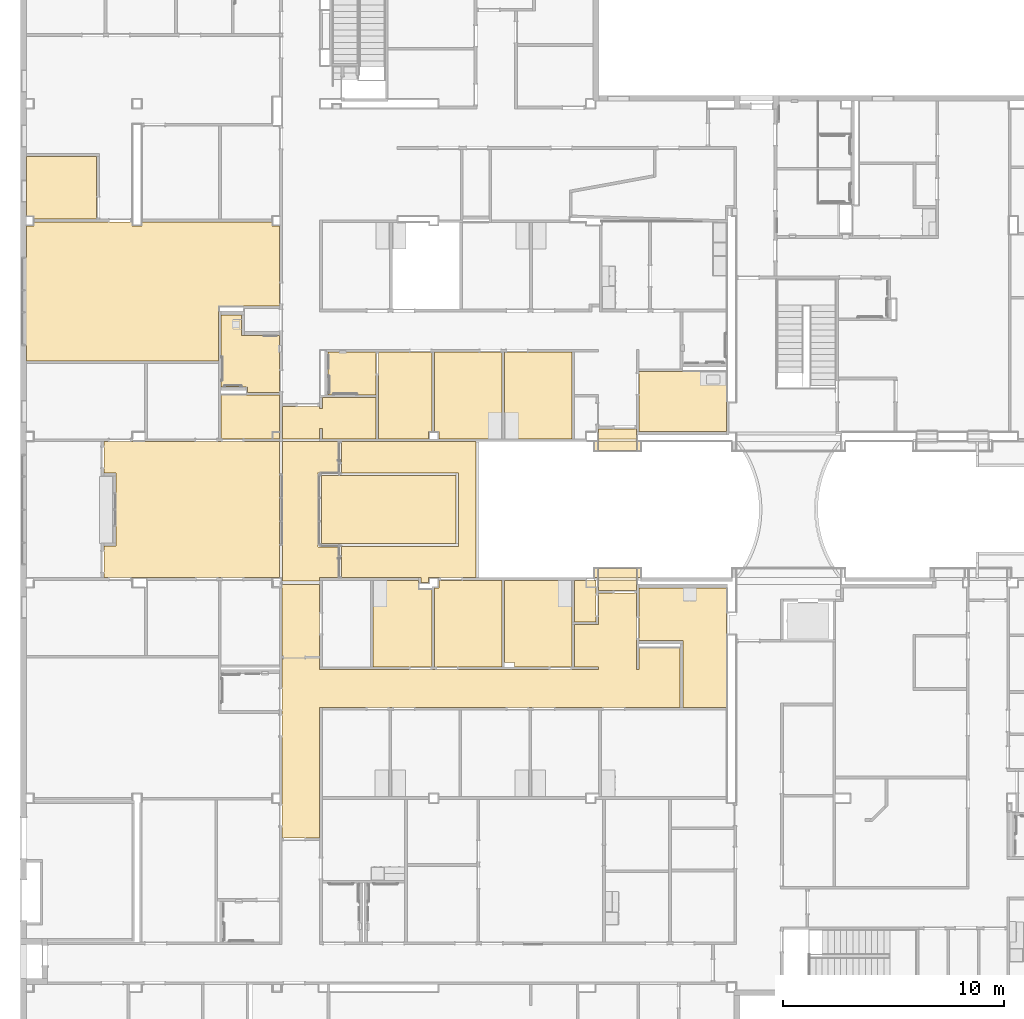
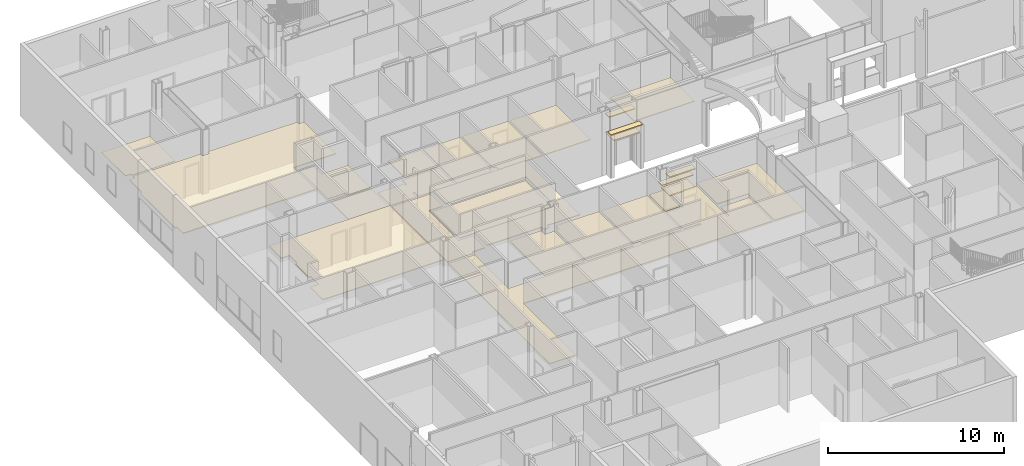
# One storey, part 50 of 82: 25 coverings.
"""IFC2X3 building model written with IfcOpenShell, lengths in metres."""

from ifc_helpers import new_model, entity, si_unit, converted_unit, origin, place, context, project, spatial, face_set, surface_model, material, layer, layer_set, layer_usage, element, save


model = new_model("IFC2X3")

# Units and contexts
model_context = context("Model", 3, precision=1e-09, world=origin())
plan_context = context("Plan", 3, precision=1e-09, world=origin())
ifc_project = project(units=[si_unit("LENGTHUNIT", "METRE"), si_unit("AREAUNIT", "SQUARE_METRE"), si_unit("VOLUMEUNIT", "CUBIC_METRE"), converted_unit("PLANEANGLEUNIT", "DEGREE", entity("IfcRatioMeasure", 0.01745329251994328), si_unit("PLANEANGLEUNIT", "RADIAN"), dimensions=[0, 0, 0, 0, 0, 0, 0]), si_unit("TIMEUNIT", "SECOND")], contexts=[model_context, plan_context])

# Site, building, storey
site_placement = place(None, origin())
site = spatial("IfcSite", under=ifc_project, at=site_placement, Name="Default", CompositionType="ELEMENT")
building_placement = place(site_placement, origin())
building = spatial("IfcBuilding", under=site, at=building_placement, CompositionType="ELEMENT")
storey_placement = place(building_placement, origin())
storey = spatial("IfcBuildingStorey", under=building, at=storey_placement, Name="First Floor", CompositionType="ELEMENT", Elevation=-3.531500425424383e-13)

# Coverings
ifc_material_1 = material(Name="Default")
ifc_layer_1 = layer(ifc_material_1, 0.03599999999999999)
ifc_material_2 = material(Name="Ceiling Tile 600 x 600")
ifc_layer_2 = layer(ifc_material_2, 0.016)
ifc_layer_set_1 = layer_set([ifc_layer_1, ifc_layer_2], Name="Compound Ceiling:ACT 600 x 600mm Grid")
ifc_layer_usage_1 = layer_usage(ifc_layer_set_1, "AXIS3", "NEGATIVE", 0.0)
covering_1_placement = place(storey_placement, origin())
element("IfcCovering", 1, at=covering_1_placement, inside=storey, material=ifc_layer_usage_1, Name="Compound Ceiling:ACT 600 x 600mm Grid", ObjectType="Compound Ceiling:ACT 600 x 600mm Grid", PredefinedType="CEILING", context=model_context, shape_type="SurfaceModel", body=[
    surface_model("IfcFaceBasedSurfaceModel", [(-38.64500000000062, 30.15499999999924, 2.732), (-38.64500000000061, 33.23499999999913, 2.732), (-32.54900000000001, 33.2349999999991, 2.732), (-32.54900000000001, 30.15499999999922, 2.732), (-38.64500000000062, 30.15499999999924, 2.68), (-38.64500000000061, 33.23499999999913, 2.68), (-32.54900000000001, 33.2349999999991, 2.68), (-32.54900000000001, 30.15499999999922, 2.68)], [face_set([[[0, 1, 2, 3]], [[4, 5, 6, 7]], [[3, 0, 4, 7]], [[2, 3, 7, 6]], [[1, 5, 6, 2]], [[0, 4, 5, 1]]])]),
])
ifc_material_3 = material(Name="Metal - Stud Layer")
ifc_layer_3 = layer(ifc_material_3, 0.045)
ifc_material_4 = material(Name="Plasterboard")
ifc_layer_4 = layer(ifc_material_4, 0.012)
ifc_layer_set_2 = layer_set([ifc_layer_3, ifc_layer_4], Name="Compound Ceiling:Gypsum Board")
ifc_layer_usage_2 = layer_usage(ifc_layer_set_2, "AXIS3", "NEGATIVE", 0.0)
covering_2_placement = place(storey_placement, origin())
element("IfcCovering", 2, at=covering_2_placement, inside=storey, material=ifc_layer_usage_2, Name="Compound Ceiling:Gypsum Board", ObjectType="Compound Ceiling:Gypsum Board", PredefinedType="CEILING", context=model_context, shape_type="SurfaceModel", body=[
    surface_model("IfcFaceBasedSurfaceModel", [(-31.63400000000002, 28.6099999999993, 2.857), (-33.78000000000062, 28.60999999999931, 2.857), (-33.78000000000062, 28.37999999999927, 2.857), (-34.1300000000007, 28.37999999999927, 2.857), (-34.1300000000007, 28.60999999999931, 2.857), (-37.73000000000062, 28.60999999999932, 2.857), (-37.73000000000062, 30.03099999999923, 2.857), (-32.42500000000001, 30.03099999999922, 2.857), (-32.42500000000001, 33.35899999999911, 2.857), (-37.73000000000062, 33.35899999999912, 2.857), (-37.73000000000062, 34.77954814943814, 2.857), (-31.63400000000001, 34.77954814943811, 2.857), (-48.50100000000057, 28.6099999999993, 2.857), (-48.50100000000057, 30.04599999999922, 2.857), (-47.96099986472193, 30.04599999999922, 2.857), (-47.96099986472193, 30.92999999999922, 2.857), (-48.08499986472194, 30.92999999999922, 2.857), (-48.08499986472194, 32.46399999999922, 2.857), (-47.96099986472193, 32.46399999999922, 2.857), (-47.96099986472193, 33.34399999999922, 2.857), (-48.50100000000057, 33.34399999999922, 2.857), (-48.50100000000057, 34.77999999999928, 2.857), (-40.53700000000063, 34.77999999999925, 2.857), (-40.53700000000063, 28.60999999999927, 2.857), (-48.50100000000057, 28.6099999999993, 2.8), (-48.50100000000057, 30.04599999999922, 2.8), (-47.96099986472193, 30.04599999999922, 2.8), (-47.96099986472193, 30.92999999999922, 2.8), (-48.08499986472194, 30.92999999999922, 2.8), (-48.08499986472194, 32.46399999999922, 2.8), (-47.96099986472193, 32.46399999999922, 2.8), (-47.96099986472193, 33.34399999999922, 2.8), (-48.50100000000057, 33.34399999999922, 2.8), (-48.50100000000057, 34.77999999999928, 2.8), (-40.53700000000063, 34.77999999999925, 2.8), (-40.53700000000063, 28.60999999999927, 2.8), (-31.63400000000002, 28.6099999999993, 2.8), (-31.63400000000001, 34.77954814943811, 2.8), (-37.73000000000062, 34.77954814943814, 2.8), (-37.73000000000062, 33.35899999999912, 2.8), (-32.42500000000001, 33.35899999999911, 2.8), (-32.42500000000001, 30.03099999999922, 2.8), (-37.73000000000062, 30.03099999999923, 2.8), (-37.73000000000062, 28.60999999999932, 2.8), (-34.1300000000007, 28.60999999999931, 2.8), (-34.1300000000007, 28.37999999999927, 2.8), (-33.78000000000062, 28.37999999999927, 2.8), (-33.78000000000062, 28.60999999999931, 2.8)], [face_set([[[0, 1, 2, 3, 4, 5, 6, 7, 8, 9, 10, 11]], [[12, 13, 14, 15, 16, 17, 18, 19, 20, 21, 22, 23]], [[24, 25, 26, 27, 28, 29, 30, 31, 32, 33, 34, 35]], [[36, 37, 38, 39, 40, 41, 42, 43, 44, 45, 46, 47]], [[11, 0, 36, 37]], [[10, 38, 37, 11]], [[21, 33, 34, 22]], [[20, 32, 33, 21]], [[19, 20, 32, 31]], [[18, 30, 31, 19]], [[17, 29, 30, 18]], [[16, 28, 29, 17]], [[15, 16, 28, 27]], [[14, 26, 27, 15]], [[13, 25, 26, 14]], [[12, 24, 25, 13]], [[23, 12, 24, 35]], [[4, 5, 43, 44]], [[3, 45, 44, 4]], [[2, 3, 45, 46]], [[1, 2, 46, 47]], [[0, 1, 47, 36]], [[9, 39, 38, 10]], [[8, 9, 39, 40]], [[7, 41, 40, 8]], [[6, 42, 41, 7]], [[5, 43, 42, 6]], [[22, 23, 35, 34]]])]),
])
covering_3_placement = place(storey_placement, origin())
element("IfcCovering", 3, at=covering_3_placement, inside=storey, material=ifc_layer_usage_1, Name="Compound Ceiling:ACT 600 x 600mm Grid", ObjectType="Compound Ceiling:ACT 600 x 600mm Grid", PredefinedType="CEILING", context=model_context, shape_type="SurfaceModel", body=[
    surface_model("IfcFaceBasedSurfaceModel", [(-40.53700000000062, 44.54999999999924, 2.732), (-40.89000000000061, 44.54999999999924, 2.732), (-40.89000000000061, 44.73999999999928, 2.732), (-46.77000000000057, 44.7399999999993, 2.732), (-46.77000000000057, 44.54999999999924, 2.732), (-47.23000000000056, 44.54999999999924, 2.732), (-47.23000000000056, 44.73999999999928, 2.732), (-51.67000000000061, 44.7399999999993, 2.732), (-51.67000000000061, 44.54999999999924, 2.732), (-52.01300000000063, 44.54999999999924, 2.732), (-52.01300000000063, 43.12995228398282, 2.732), (-52.14650000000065, 43.12995228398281, 2.732), (-52.14650000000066, 39.12995228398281, 2.732), (-52.01300000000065, 39.12995228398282, 2.732), (-52.01300000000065, 38.42999999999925, 2.732), (-43.31000000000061, 38.42999999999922, 2.732), (-43.31000000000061, 40.9299999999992, 2.732), (-40.53700000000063, 40.9299999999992, 2.732), (-40.53700000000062, 44.54999999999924, 2.68), (-40.53700000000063, 40.9299999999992, 2.68), (-43.31000000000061, 40.9299999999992, 2.68), (-43.31000000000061, 38.42999999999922, 2.68), (-52.01300000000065, 38.42999999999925, 2.68), (-52.01300000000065, 39.12995228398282, 2.68), (-52.14650000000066, 39.12995228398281, 2.68), (-52.14650000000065, 43.12995228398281, 2.68), (-52.01300000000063, 43.12995228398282, 2.68), (-52.01300000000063, 44.54999999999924, 2.68), (-51.67000000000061, 44.54999999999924, 2.68), (-51.67000000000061, 44.7399999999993, 2.68), (-47.23000000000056, 44.73999999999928, 2.68), (-47.23000000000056, 44.54999999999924, 2.68), (-46.77000000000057, 44.54999999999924, 2.68), (-46.77000000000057, 44.7399999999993, 2.68), (-40.89000000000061, 44.73999999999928, 2.68), (-40.89000000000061, 44.54999999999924, 2.68)], [face_set([[[0, 1, 2, 3, 4, 5, 6, 7, 8, 9, 10, 11, 12, 13, 14, 15, 16, 17]], [[18, 19, 20, 21, 22, 23, 24, 25, 26, 27, 28, 29, 30, 31, 32, 33, 34, 35]], [[2, 1, 35, 34]], [[3, 33, 34, 2]], [[4, 32, 33, 3]], [[5, 31, 32, 4]], [[6, 5, 31, 30]], [[7, 29, 30, 6]], [[8, 28, 29, 7]], [[9, 27, 28, 8]], [[10, 26, 27, 9]], [[11, 25, 26, 10]], [[12, 24, 25, 11]], [[13, 12, 24, 23]], [[14, 22, 23, 13]], [[15, 14, 22, 21]], [[16, 15, 21, 20]], [[17, 16, 20, 19]], [[0, 17, 19, 18]], [[1, 35, 18, 0]]])]),
])
covering_4_placement = place(storey_placement, origin())
element("IfcCovering", 4, at=covering_4_placement, inside=storey, material=ifc_layer_usage_1, Name="Compound Ceiling:ACT 600 x 600mm Grid", ObjectType="Compound Ceiling:ACT 600 x 600mm Grid", PredefinedType="CEILING", context=model_context, shape_type="SurfaceModel", body=[
    surface_model("IfcFaceBasedSurfaceModel", [(-42.25480000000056, 39.57339999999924, 2.732), (-40.53700000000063, 39.57339999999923, 2.732), (-40.53700000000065, 37.00399999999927, 2.732), (-42.0, 37.00399999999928, 2.732), (-42.0, 37.25999999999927, 2.732), (-43.18600000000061, 37.25999999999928, 2.732), (-43.1860000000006, 40.52339999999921, 2.732), (-42.25480000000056, 40.52339999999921, 2.732), (-42.25480000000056, 39.57339999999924, 2.68), (-40.53700000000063, 39.57339999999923, 2.68), (-40.53700000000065, 37.00399999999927, 2.68), (-42.0, 37.00399999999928, 2.68), (-42.0, 37.25999999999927, 2.68), (-43.18600000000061, 37.25999999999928, 2.68), (-43.1860000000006, 40.52339999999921, 2.68), (-42.25480000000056, 40.52339999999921, 2.68)], [face_set([[[0, 1, 2, 3, 4, 5, 6, 7]], [[8, 9, 10, 11, 12, 13, 14, 15]], [[7, 0, 8, 15]], [[6, 14, 15, 7]], [[5, 13, 14, 6]], [[4, 5, 13, 12]], [[3, 11, 12, 4]], [[2, 3, 11, 10]], [[1, 2, 10, 9]], [[0, 8, 9, 1]]])]),
])
covering_5_placement = place(storey_placement, origin())
element("IfcCovering", 5, at=covering_5_placement, inside=storey, material=ifc_layer_usage_1, Name="Compound Ceiling:ACT 600 x 600mm Grid", ObjectType="Compound Ceiling:ACT 600 x 600mm Grid", PredefinedType="CEILING", context=model_context, shape_type="SurfaceModel", body=[
    surface_model("IfcFaceBasedSurfaceModel", [(-36.30600000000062, 28.48599999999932, 2.732), (-34.2540000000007, 28.48599999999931, 2.732), (-34.2540000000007, 28.06499951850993, 2.732), (-33.63400000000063, 28.06499951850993, 2.732), (-33.63400000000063, 24.56399999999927, 2.732), (-36.30600000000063, 24.56399999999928, 2.732), (-36.30600000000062, 28.48599999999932, 2.68), (-34.2540000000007, 28.48599999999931, 2.68), (-34.2540000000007, 28.06499951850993, 2.68), (-33.63400000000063, 28.06499951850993, 2.68), (-33.63400000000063, 24.56399999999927, 2.68), (-36.30600000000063, 24.56399999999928, 2.68)], [face_set([[[0, 1, 2, 3, 4, 5]], [[6, 7, 8, 9, 10, 11]], [[5, 11, 6, 0]], [[4, 5, 11, 10]], [[3, 4, 10, 9]], [[2, 8, 9, 3]], [[1, 2, 8, 7]], [[0, 6, 7, 1]]])]),
])
covering_6_placement = place(storey_placement, origin())
element("IfcCovering", 6, at=covering_6_placement, inside=storey, material=ifc_layer_usage_1, Name="Compound Ceiling:ACT 600 x 600mm Grid", ObjectType="Compound Ceiling:ACT 600 x 600mm Grid", PredefinedType="CEILING", context=model_context, shape_type="SurfaceModel", body=[
    surface_model("IfcFaceBasedSurfaceModel", [(-37.88000000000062, 34.77954814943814, 2.732), (-37.88000000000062, 33.38499999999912, 2.732), (-38.79500000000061, 33.38499999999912, 2.732), (-38.79500000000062, 30.00499999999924, 2.732), (-37.88000000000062, 30.00499999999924, 2.732), (-37.88000000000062, 28.60999999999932, 2.732), (-38.72000000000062, 28.60999999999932, 2.732), (-38.72000000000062, 28.45650000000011, 2.732), (-40.41300000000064, 28.45650000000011, 2.732), (-40.41300000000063, 34.77954814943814, 2.732), (-37.88000000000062, 34.77954814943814, 2.68), (-37.88000000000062, 33.38499999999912, 2.68), (-38.79500000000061, 33.38499999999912, 2.68), (-38.79500000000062, 30.00499999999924, 2.68), (-37.88000000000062, 30.00499999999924, 2.68), (-37.88000000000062, 28.60999999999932, 2.68), (-38.72000000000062, 28.60999999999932, 2.68), (-38.72000000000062, 28.45650000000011, 2.68), (-40.41300000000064, 28.45650000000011, 2.68), (-40.41300000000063, 34.77954814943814, 2.68)], [face_set([[[0, 1, 2, 3, 4, 5, 6, 7, 8, 9]], [[10, 11, 12, 13, 14, 15, 16, 17, 18, 19]], [[9, 19, 10, 0]], [[8, 18, 19, 9]], [[7, 8, 18, 17]], [[6, 7, 17, 16]], [[5, 6, 16, 15]], [[4, 5, 15, 14]], [[3, 13, 14, 4]], [[2, 3, 13, 12]], [[1, 2, 12, 11]], [[0, 1, 11, 10]]])]),
])
covering_7_placement = place(storey_placement, origin())
element("IfcCovering", 7, at=covering_7_placement, inside=storey, material=ifc_layer_usage_1, Name="Compound Ceiling:ACT 600 x 600mm Grid", ObjectType="Compound Ceiling:ACT 600 x 600mm Grid", PredefinedType="CEILING", context=model_context, shape_type="SurfaceModel", body=[
    surface_model("IfcFaceBasedSurfaceModel", [(-40.43000000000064, 16.81399999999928, 2.732), (-40.43000000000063, 28.30350000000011, 2.732), (-38.72000000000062, 28.30350000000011, 2.732), (-38.72000000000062, 24.43999999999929, 2.732), (-26.08000000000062, 24.43999999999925, 2.732), (-26.08000000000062, 24.56399999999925, 2.732), (-27.16999974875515, 24.56399999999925, 2.732), (-27.16999974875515, 26.47999999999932, 2.732), (-26.08000000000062, 26.47999999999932, 2.732), (-26.08000000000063, 27.90999999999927, 2.732), (-24.37000000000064, 27.90999999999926, 2.732), (-24.37000000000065, 24.43999999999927, 2.732), (-24.24600000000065, 24.43999999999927, 2.732), (-24.24600000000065, 25.41999999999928, 2.732), (-22.38000000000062, 25.41999999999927, 2.732), (-22.38000000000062, 22.72999999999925, 2.732), (-38.72000000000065, 22.7299999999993, 2.732), (-38.72000000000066, 16.81399999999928, 2.732), (-40.43000000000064, 16.81399999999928, 2.68), (-40.43000000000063, 28.30350000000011, 2.68), (-38.72000000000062, 28.30350000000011, 2.68), (-38.72000000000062, 24.43999999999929, 2.68), (-26.08000000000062, 24.43999999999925, 2.68), (-26.08000000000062, 24.56399999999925, 2.68), (-27.16999974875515, 24.56399999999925, 2.68), (-27.16999974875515, 26.47999999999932, 2.68), (-26.08000000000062, 26.47999999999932, 2.68), (-26.08000000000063, 27.90999999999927, 2.68), (-24.37000000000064, 27.90999999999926, 2.68), (-24.37000000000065, 24.43999999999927, 2.68), (-24.24600000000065, 24.43999999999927, 2.68), (-24.24600000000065, 25.41999999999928, 2.68), (-22.38000000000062, 25.41999999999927, 2.68), (-22.38000000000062, 22.72999999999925, 2.68), (-38.72000000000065, 22.7299999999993, 2.68), (-38.72000000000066, 16.81399999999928, 2.68)], [face_set([[[0, 1, 2, 3, 4, 5, 6, 7, 8, 9, 10, 11, 12, 13, 14, 15, 16, 17]], [[18, 19, 20, 21, 22, 23, 24, 25, 26, 27, 28, 29, 30, 31, 32, 33, 34, 35]], [[17, 0, 18, 35]], [[16, 17, 35, 34]], [[15, 16, 34, 33]], [[14, 15, 33, 32]], [[13, 31, 32, 14]], [[12, 30, 31, 13]], [[11, 29, 30, 12]], [[10, 11, 29, 28]], [[9, 27, 28, 10]], [[8, 26, 27, 9]], [[7, 25, 26, 8]], [[6, 24, 25, 7]], [[5, 6, 24, 23]], [[4, 22, 23, 5]], [[3, 21, 22, 4]], [[2, 3, 21, 20]], [[1, 19, 20, 2]], [[0, 18, 19, 1]]])]),
])
covering_8_placement = place(storey_placement, origin())
element("IfcCovering", 8, at=covering_8_placement, inside=storey, material=ifc_layer_usage_1, Name="Compound Ceiling:ACT 600 x 600mm Grid", ObjectType="Compound Ceiling:ACT 600 x 600mm Grid", PredefinedType="CEILING", context=model_context, shape_type="SurfaceModel", body=[
    surface_model("IfcFaceBasedSurfaceModel", [(-52.01300000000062, 47.70599999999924, 2.732), (-48.82900000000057, 47.70599999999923, 2.732), (-48.82900000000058, 44.86399999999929, 2.732), (-51.67000000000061, 44.86399999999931, 2.732), (-51.67000000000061, 45.00999999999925, 2.732), (-52.01300000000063, 45.00999999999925, 2.732), (-52.01300000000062, 47.70599999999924, 2.68), (-48.82900000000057, 47.70599999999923, 2.68), (-48.82900000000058, 44.86399999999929, 2.68), (-51.67000000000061, 44.86399999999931, 2.68), (-51.67000000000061, 45.00999999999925, 2.68), (-52.01300000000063, 45.00999999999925, 2.68)], [face_set([[[0, 1, 2, 3, 4, 5]], [[6, 7, 8, 9, 10, 11]], [[5, 11, 6, 0]], [[4, 5, 11, 10]], [[3, 9, 10, 4]], [[2, 3, 9, 8]], [[1, 2, 8, 7]], [[0, 6, 7, 1]]])]),
])
covering_9_placement = place(storey_placement, origin())
element("IfcCovering", 9, at=covering_9_placement, inside=storey, material=ifc_layer_usage_2, Name="Compound Ceiling:Gypsum Board", ObjectType="Compound Ceiling:Gypsum Board", PredefinedType="CEILING", context=model_context, shape_type="SurfaceModel", body=[
    surface_model("IfcFaceBasedSurfaceModel", [(-26.08000000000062, 35.35599999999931, 2.557), (-24.37000000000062, 35.35599999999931, 2.557), (-24.37000000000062, 34.37400192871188, 2.557), (-26.08000000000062, 34.37400192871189, 2.557), (-26.08000000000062, 35.35599999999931, 2.5), (-24.37000000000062, 35.35599999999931, 2.5), (-24.37000000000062, 34.37400192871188, 2.5), (-26.08000000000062, 34.37400192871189, 2.5)], [face_set([[[0, 1, 2, 3]], [[4, 5, 6, 7]], [[3, 7, 4, 0]], [[2, 3, 7, 6]], [[1, 2, 6, 5]], [[0, 4, 5, 1]]])]),
])
covering_10_placement = place(storey_placement, origin())
element("IfcCovering", 10, at=covering_10_placement, inside=storey, material=ifc_layer_usage_1, Name="Compound Ceiling:ACT 600 x 600mm Grid", ObjectType="Compound Ceiling:ACT 600 x 600mm Grid", PredefinedType="CEILING", context=model_context, shape_type="SurfaceModel", body=[
    surface_model("IfcFaceBasedSurfaceModel", [(-38.34000000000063, 36.89399999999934, 2.732), (-38.34000000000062, 38.82599999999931, 2.732), (-36.17400000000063, 38.8259999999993, 2.732), (-36.17400000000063, 36.89399999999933, 2.732), (-38.34000000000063, 36.89399999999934, 2.68), (-38.34000000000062, 38.82599999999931, 2.68), (-36.17400000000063, 38.8259999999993, 2.68), (-36.17400000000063, 36.89399999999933, 2.68)], [face_set([[[0, 1, 2, 3]], [[4, 5, 6, 7]], [[3, 0, 4, 7]], [[2, 3, 7, 6]], [[1, 5, 6, 2]], [[0, 4, 5, 1]]])]),
])
covering_11_placement = place(storey_placement, origin())
element("IfcCovering", 11, at=covering_11_placement, inside=storey, material=ifc_layer_usage_2, Name="Compound Ceiling:Gypsum Board", ObjectType="Compound Ceiling:Gypsum Board", PredefinedType="CEILING", context=model_context, shape_type="SurfaceModel", body=[
    surface_model("IfcFaceBasedSurfaceModel", [(-26.08000000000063, 28.03399999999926, 3.857), (-26.08000000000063, 28.48599999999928, 3.857), (-24.37000000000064, 28.48599999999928, 3.857), (-24.37000000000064, 28.03399999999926, 3.857), (-26.08000000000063, 28.03399999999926, 3.8), (-26.08000000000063, 28.48599999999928, 3.8), (-24.37000000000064, 28.48599999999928, 3.8), (-24.37000000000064, 28.03399999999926, 3.8)], [face_set([[[0, 1, 2, 3]], [[4, 5, 6, 7]], [[3, 0, 4, 7]], [[2, 3, 7, 6]], [[1, 5, 6, 2]], [[0, 4, 5, 1]]])]),
])
covering_12_placement = place(storey_placement, origin())
element("IfcCovering", 12, at=covering_12_placement, inside=storey, material=ifc_layer_usage_1, Name="Compound Ceiling:ACT 600 x 600mm Grid", ObjectType="Compound Ceiling:ACT 600 x 600mm Grid", PredefinedType="CEILING", context=model_context, shape_type="SurfaceModel", body=[
    surface_model("IfcFaceBasedSurfaceModel", [(-30.34000000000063, 34.90354814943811, 2.732), (-30.34000000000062, 38.82599999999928, 2.732), (-27.29400000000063, 38.82599999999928, 2.732), (-27.29400000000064, 34.9035481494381, 2.732), (-30.34000000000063, 34.90354814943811, 2.68), (-30.34000000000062, 38.82599999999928, 2.68), (-27.29400000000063, 38.82599999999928, 2.68), (-27.29400000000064, 34.9035481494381, 2.68)], [face_set([[[0, 1, 2, 3]], [[4, 5, 6, 7]], [[3, 0, 4, 7]], [[2, 3, 7, 6]], [[1, 5, 6, 2]], [[0, 4, 5, 1]]])]),
])
covering_13_placement = place(storey_placement, origin())
element("IfcCovering", 13, at=covering_13_placement, inside=storey, material=ifc_layer_usage_2, Name="Compound Ceiling:Gypsum Board", ObjectType="Compound Ceiling:Gypsum Board", PredefinedType="CEILING", context=model_context, shape_type="SurfaceModel", body=[
    surface_model("IfcFaceBasedSurfaceModel", [(-26.0800000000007, 29.01599807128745, 2.557), (-24.3700000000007, 29.01599807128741, 2.557), (-24.37000000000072, 28.03399999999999, 2.557), (-26.08000000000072, 28.03400000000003, 2.557), (-26.0800000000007, 29.01599807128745, 2.5), (-24.3700000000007, 29.01599807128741, 2.5), (-24.37000000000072, 28.03399999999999, 2.5), (-26.08000000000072, 28.03400000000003, 2.5)], [face_set([[[0, 1, 2, 3]], [[4, 5, 6, 7]], [[3, 7, 4, 0]], [[0, 4, 5, 1]], [[1, 2, 6, 5]], [[2, 3, 7, 6]]])]),
])
covering_14_placement = place(storey_placement, origin())
element("IfcCovering", 14, at=covering_14_placement, inside=storey, material=ifc_layer_usage_1, Name="Compound Ceiling:ACT 600 x 600mm Grid", ObjectType="Compound Ceiling:ACT 600 x 600mm Grid", PredefinedType="CEILING", context=model_context, shape_type="SurfaceModel", body=[
    surface_model("IfcFaceBasedSurfaceModel", [(-33.63400000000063, 38.82599999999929, 2.732), (-33.63400000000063, 35.23999999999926, 2.732), (-33.78000000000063, 35.23999999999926, 2.732), (-33.78000000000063, 34.90354814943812, 2.732), (-36.05000000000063, 34.90354814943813, 2.732), (-36.05000000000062, 38.8259999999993, 2.732), (-33.63400000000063, 38.82599999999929, 2.68), (-33.63400000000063, 35.23999999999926, 2.68), (-33.78000000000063, 35.23999999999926, 2.68), (-33.78000000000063, 34.90354814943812, 2.68), (-36.05000000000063, 34.90354814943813, 2.68), (-36.05000000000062, 38.8259999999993, 2.68)], [face_set([[[0, 1, 2, 3, 4, 5]], [[6, 7, 8, 9, 10, 11]], [[5, 11, 6, 0]], [[4, 10, 11, 5]], [[3, 4, 10, 9]], [[2, 3, 9, 8]], [[1, 2, 8, 7]], [[0, 1, 7, 6]]])]),
])
covering_15_placement = place(storey_placement, origin())
element("IfcCovering", 15, at=covering_15_placement, inside=storey, material=ifc_layer_usage_1, Name="Compound Ceiling:ACT 600 x 600mm Grid", ObjectType="Compound Ceiling:ACT 600 x 600mm Grid", PredefinedType="CEILING", context=model_context, shape_type="SurfaceModel", body=[
    surface_model("IfcFaceBasedSurfaceModel", [(-30.46400000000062, 24.56399999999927, 2.732), (-33.51000000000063, 24.56399999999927, 2.732), (-33.51000000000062, 28.14999999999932, 2.732), (-33.32000000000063, 28.14999999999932, 2.732), (-33.32000000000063, 28.48599999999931, 2.732), (-30.46400000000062, 28.4859999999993, 2.732), (-30.46400000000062, 24.56399999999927, 2.68), (-33.51000000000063, 24.56399999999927, 2.68), (-33.51000000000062, 28.14999999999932, 2.68), (-33.32000000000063, 28.14999999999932, 2.68), (-33.32000000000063, 28.48599999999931, 2.68), (-30.46400000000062, 28.4859999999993, 2.68)], [face_set([[[0, 1, 2, 3, 4, 5]], [[6, 7, 8, 9, 10, 11]], [[5, 0, 6, 11]], [[4, 10, 11, 5]], [[3, 9, 10, 4]], [[2, 8, 9, 3]], [[1, 7, 8, 2]], [[0, 1, 7, 6]]])]),
])
covering_16_placement = place(storey_placement, origin())
element("IfcCovering", 16, at=covering_16_placement, inside=storey, material=ifc_layer_usage_1, Name="Compound Ceiling:ACT 600 x 600mm Grid", ObjectType="Compound Ceiling:ACT 600 x 600mm Grid", PredefinedType="CEILING", context=model_context, shape_type="SurfaceModel", body=[
    surface_model("IfcFaceBasedSurfaceModel", [(-27.29399974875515, 24.56399999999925, 2.732), (-29.90000055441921, 24.56399999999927, 2.732), (-29.90000055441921, 24.75500039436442, 2.732), (-30.34000000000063, 24.75500039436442, 2.732), (-30.34000000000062, 28.4859999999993, 2.732), (-27.29399974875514, 28.48599999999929, 2.732), (-27.29399974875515, 26.54199999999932, 2.732), (-27.29399974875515, 24.56399999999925, 2.68), (-29.90000055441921, 24.56399999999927, 2.68), (-29.90000055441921, 24.75500039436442, 2.68), (-30.34000000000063, 24.75500039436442, 2.68), (-30.34000000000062, 28.4859999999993, 2.68), (-27.29399974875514, 28.48599999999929, 2.68), (-27.29399974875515, 26.54199999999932, 2.68)], [face_set([[[0, 1, 2, 3, 4, 5, 6]], [[7, 8, 9, 10, 11, 12, 13]], [[6, 0, 7, 13]], [[5, 6, 13, 12]], [[4, 11, 12, 5]], [[3, 10, 11, 4]], [[2, 3, 10, 9]], [[1, 8, 9, 2]], [[0, 1, 8, 7]]])]),
])
covering_17_placement = place(storey_placement, origin())
element("IfcCovering", 17, at=covering_17_placement, inside=storey, material=ifc_layer_usage_2, Name="Compound Ceiling:Gypsum Board", ObjectType="Compound Ceiling:Gypsum Board", PredefinedType="CEILING", context=model_context, shape_type="SurfaceModel", body=[
    surface_model("IfcFaceBasedSurfaceModel", [(-24.37000000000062, 35.35599999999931, 3.857), (-24.37000000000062, 34.9035481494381, 3.857), (-26.08000000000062, 34.9035481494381, 3.857), (-26.08000000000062, 35.35599999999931, 3.857), (-24.37000000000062, 35.35599999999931, 3.8), (-24.37000000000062, 34.9035481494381, 3.8), (-26.08000000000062, 34.9035481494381, 3.8), (-26.08000000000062, 35.35599999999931, 3.8)], [face_set([[[0, 1, 2, 3]], [[4, 5, 6, 7]], [[3, 7, 4, 0]], [[2, 6, 7, 3]], [[1, 2, 6, 5]], [[0, 1, 5, 4]]])]),
])
covering_18_placement = place(storey_placement, origin())
element("IfcCovering", 18, at=covering_18_placement, inside=storey, material=ifc_layer_usage_1, Name="Compound Ceiling:ACT 600 x 600mm Grid", ObjectType="Compound Ceiling:ACT 600 x 600mm Grid", PredefinedType="CEILING", context=model_context, shape_type="SurfaceModel", body=[
    surface_model("IfcFaceBasedSurfaceModel", [(-40.41300000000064, 34.90354814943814, 2.732), (-40.41300000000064, 36.37749999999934, 2.732), (-38.72000000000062, 36.37749999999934, 2.732), (-38.72000000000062, 36.27749999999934, 2.732), (-38.59600000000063, 36.27749999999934, 2.732), (-38.59600000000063, 36.76999999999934, 2.732), (-36.17400000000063, 36.76999999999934, 2.732), (-36.17400000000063, 34.90354814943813, 2.732), (-38.59600000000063, 34.90354814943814, 2.732), (-38.59600000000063, 35.36249999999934, 2.732), (-38.72000000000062, 35.36249999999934, 2.732), (-38.72000000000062, 34.90354814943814, 2.732), (-40.41300000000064, 34.90354814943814, 2.68), (-40.41300000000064, 36.37749999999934, 2.68), (-38.72000000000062, 36.37749999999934, 2.68), (-38.72000000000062, 36.27749999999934, 2.68), (-38.59600000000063, 36.27749999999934, 2.68), (-38.59600000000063, 36.76999999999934, 2.68), (-36.17400000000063, 36.76999999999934, 2.68), (-36.17400000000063, 34.90354814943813, 2.68), (-38.59600000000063, 34.90354814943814, 2.68), (-38.59600000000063, 35.36249999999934, 2.68), (-38.72000000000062, 35.36249999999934, 2.68), (-38.72000000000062, 34.90354814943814, 2.68)], [face_set([[[0, 1, 2, 3, 4, 5, 6, 7, 8, 9, 10, 11]], [[12, 13, 14, 15, 16, 17, 18, 19, 20, 21, 22, 23]], [[11, 0, 12, 23]], [[10, 11, 23, 22]], [[9, 10, 22, 21]], [[8, 20, 21, 9]], [[7, 8, 20, 19]], [[6, 7, 19, 18]], [[5, 17, 18, 6]], [[4, 16, 17, 5]], [[3, 15, 16, 4]], [[2, 3, 15, 14]], [[1, 13, 14, 2]], [[0, 12, 13, 1]]])]),
])
covering_19_placement = place(storey_placement, origin())
element("IfcCovering", 19, at=covering_19_placement, inside=storey, material=ifc_layer_usage_1, Name="Compound Ceiling:ACT 600 x 600mm Grid", ObjectType="Compound Ceiling:ACT 600 x 600mm Grid", PredefinedType="CEILING", context=model_context, shape_type="SurfaceModel", body=[
    surface_model("IfcFaceBasedSurfaceModel", [(-26.20400000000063, 28.48599999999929, 2.732), (-26.20400000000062, 26.60399999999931, 2.732), (-27.16999974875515, 26.60399999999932, 2.732), (-27.16999974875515, 28.48599999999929, 2.732), (-26.20400000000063, 28.48599999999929, 2.68), (-26.20400000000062, 26.60399999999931, 2.68), (-27.16999974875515, 26.60399999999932, 2.68), (-27.16999974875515, 28.48599999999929, 2.68)], [face_set([[[0, 1, 2, 3]], [[4, 5, 6, 7]], [[3, 7, 4, 0]], [[2, 6, 7, 3]], [[1, 2, 6, 5]], [[0, 1, 5, 4]]])]),
])
covering_20_placement = place(storey_placement, origin())
element("IfcCovering", 20, at=covering_20_placement, inside=storey, material=ifc_layer_usage_2, Name="Compound Ceiling:Gypsum Board", ObjectType="Compound Ceiling:Gypsum Board", PredefinedType="CEILING", context=model_context, shape_type="SurfaceModel", body=[
    surface_model("IfcFaceBasedSurfaceModel", [(-26.26100000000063, 29.01599807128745, 3.0), (-24.18900000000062, 29.0159980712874, 3.0), (-24.18900000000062, 28.60999999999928, 3.0), (-26.26100000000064, 28.60999999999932, 3.0), (-26.26100000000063, 29.01599807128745, 2.943), (-24.18900000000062, 29.0159980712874, 2.943), (-24.18900000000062, 28.60999999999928, 2.943), (-26.26100000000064, 28.60999999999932, 2.943)], [face_set([[[0, 1, 2, 3]], [[4, 5, 6, 7]], [[3, 7, 4, 0]], [[0, 4, 5, 1]], [[2, 3, 7, 6]], [[1, 2, 6, 5]]])]),
])
covering_21_placement = place(storey_placement, origin())
element("IfcCovering", 21, at=covering_21_placement, inside=storey, material=ifc_layer_usage_1, Name="Compound Ceiling:ACT 600 x 600mm Grid", ObjectType="Compound Ceiling:ACT 600 x 600mm Grid", PredefinedType="CEILING", context=model_context, shape_type="SurfaceModel", body=[
    surface_model("IfcFaceBasedSurfaceModel", [(-43.18600000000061, 36.87999999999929, 2.732), (-40.53700000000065, 36.87999999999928, 2.732), (-40.53700000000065, 34.90399999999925, 2.732), (-43.18600000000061, 34.90399999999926, 2.732), (-43.18600000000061, 36.87999999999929, 2.68), (-40.53700000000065, 36.87999999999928, 2.68), (-40.53700000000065, 34.90399999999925, 2.68), (-43.18600000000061, 34.90399999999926, 2.68)], [face_set([[[0, 1, 2, 3]], [[4, 5, 6, 7]], [[3, 7, 4, 0]], [[2, 3, 7, 6]], [[1, 2, 6, 5]], [[0, 4, 5, 1]]])]),
])
covering_22_placement = place(storey_placement, origin())
element("IfcCovering", 22, at=covering_22_placement, inside=storey, material=ifc_layer_usage_1, Name="Compound Ceiling:ACT 600 x 600mm Grid", ObjectType="Compound Ceiling:ACT 600 x 600mm Grid", PredefinedType="CEILING", context=model_context, shape_type="SurfaceModel", body=[
    surface_model("IfcFaceBasedSurfaceModel", [(-33.51000000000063, 35.23999999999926, 2.732), (-33.32000000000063, 35.23999999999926, 2.732), (-33.32000000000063, 34.90354814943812, 2.732), (-30.46400000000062, 34.90354814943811, 2.732), (-30.46400000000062, 38.82599999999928, 2.732), (-33.51000000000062, 38.82599999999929, 2.732), (-33.51000000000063, 35.23999999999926, 2.68), (-33.51000000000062, 38.82599999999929, 2.68), (-30.46400000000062, 38.82599999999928, 2.68), (-30.46400000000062, 34.90354814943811, 2.68), (-33.32000000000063, 34.90354814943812, 2.68), (-33.32000000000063, 35.23999999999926, 2.68)], [face_set([[[0, 1, 2, 3, 4, 5]], [[6, 7, 8, 9, 10, 11]], [[1, 0, 6, 11]], [[2, 10, 11, 1]], [[3, 2, 10, 9]], [[4, 3, 9, 8]], [[5, 7, 8, 4]], [[0, 6, 7, 5]]])]),
])
covering_23_placement = place(storey_placement, origin())
element("IfcCovering", 23, at=covering_23_placement, inside=storey, material=ifc_layer_usage_1, Name="Compound Ceiling:ACT 600 x 600mm Grid", ObjectType="Compound Ceiling:ACT 600 x 600mm Grid", PredefinedType="CEILING", context=model_context, shape_type="SurfaceModel", body=[
    surface_model("IfcFaceBasedSurfaceModel", [(-20.29000000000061, 36.59699999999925, 2.732), (-20.29000000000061, 35.23999999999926, 2.732), (-24.24600000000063, 35.23999999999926, 2.732), (-24.24600000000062, 37.94999999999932, 2.732), (-20.29000000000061, 37.94999999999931, 2.732), (-20.29000000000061, 36.59699999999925, 2.68), (-20.29000000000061, 35.23999999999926, 2.68), (-24.24600000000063, 35.23999999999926, 2.68), (-24.24600000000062, 37.94999999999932, 2.68), (-20.29000000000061, 37.94999999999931, 2.68)], [face_set([[[0, 1, 2, 3, 4]], [[5, 6, 7, 8, 9]], [[3, 8, 9, 4]], [[2, 7, 8, 3]], [[1, 2, 7, 6]], [[0, 1, 6, 5]], [[4, 0, 5, 9]]])]),
])
covering_24_placement = place(storey_placement, origin())
element("IfcCovering", 24, at=covering_24_placement, inside=storey, material=ifc_layer_usage_1, Name="Compound Ceiling:ACT 600 x 600mm Grid", ObjectType="Compound Ceiling:ACT 600 x 600mm Grid", PredefinedType="CEILING", context=model_context, shape_type="SurfaceModel", body=[
    surface_model("IfcFaceBasedSurfaceModel", [(-20.29000000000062, 22.72999999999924, 2.732), (-22.25600000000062, 22.72999999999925, 2.732), (-22.25600000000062, 25.7659999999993, 2.732), (-24.24600000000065, 25.76599999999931, 2.732), (-24.24600000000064, 28.14999999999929, 2.732), (-20.2900000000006, 28.14999999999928, 2.732), (-20.29000000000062, 22.72999999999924, 2.68), (-22.25600000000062, 22.72999999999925, 2.68), (-22.25600000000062, 25.7659999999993, 2.68), (-24.24600000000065, 25.76599999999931, 2.68), (-24.24600000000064, 28.14999999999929, 2.68), (-20.2900000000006, 28.14999999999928, 2.68)], [face_set([[[0, 1, 2, 3, 4, 5]], [[6, 7, 8, 9, 10, 11]], [[4, 10, 11, 5]], [[3, 9, 10, 4]], [[2, 3, 9, 8]], [[1, 7, 8, 2]], [[0, 1, 7, 6]], [[5, 0, 6, 11]]])]),
])
covering_25_placement = place(storey_placement, origin())
element("IfcCovering", 25, at=covering_25_placement, inside=storey, material=ifc_layer_usage_2, Name="Compound Ceiling:Gypsum Board", ObjectType="Compound Ceiling:Gypsum Board", PredefinedType="CEILING", context=model_context, shape_type="SurfaceModel", body=[
    surface_model("IfcFaceBasedSurfaceModel", [(-26.26100000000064, 34.7795481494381, 3.0), (-24.18900000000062, 34.77954814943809, 3.0), (-24.18900000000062, 34.37400192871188, 3.0), (-26.26100000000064, 34.37400192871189, 3.0), (-26.26100000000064, 34.7795481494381, 2.943), (-24.18900000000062, 34.77954814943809, 2.943), (-24.18900000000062, 34.37400192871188, 2.943), (-26.26100000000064, 34.37400192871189, 2.943)], [face_set([[[0, 1, 2, 3]], [[4, 5, 6, 7]], [[3, 7, 4, 0]], [[2, 3, 7, 6]], [[1, 2, 6, 5]], [[0, 4, 5, 1]]])]),
])

save(model, "model.ifc")
